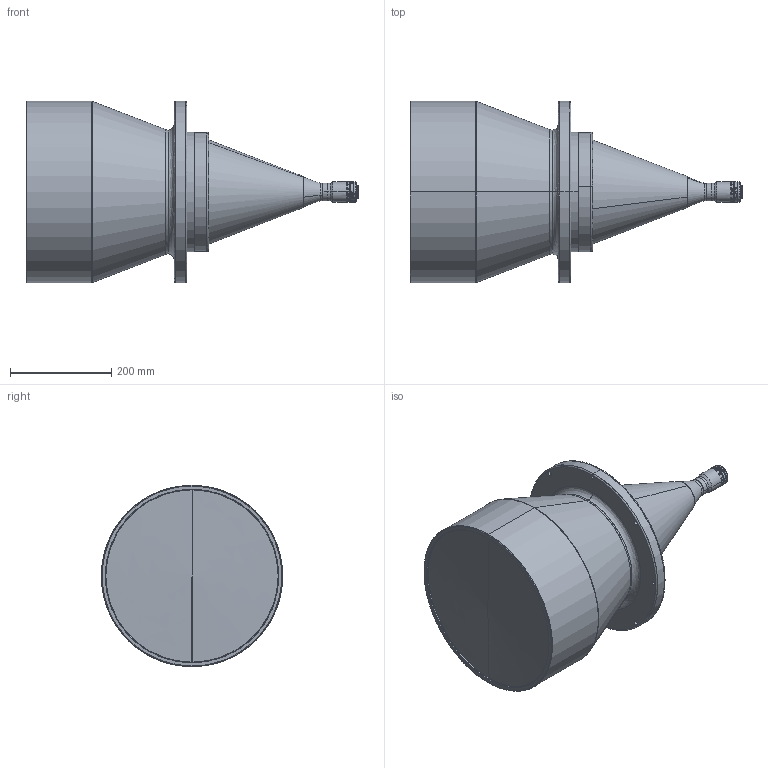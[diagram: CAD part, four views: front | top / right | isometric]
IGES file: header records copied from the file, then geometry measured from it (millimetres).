
Start section: SolidWorks IGES file using analytic representation for surfaces
Global section: file name: F:\BaiduSyncdisk\1-产品  2022-new\DTCM（2023.5.29整体拷过来）\F+B\－－ AL   可调后截距\300S-  AL-ok\DTCM110-300S-AL\3D\DTCM110-300S-AL.IGS; native system: SolidWorks 2017; preprocessor: SolidWorks 2017; author: luo-PC; date: 231122.181839; units: millimetre
Bounding box: 655.36 x 358 x 358 mm (x, y, z)
Surface area: 688377.2 mm2 (no closed solid volume)
Topology: 0 solids, 0 shells, 249 faces, 4038 edges, 4032 vertices
Faces by surface type: revolution 199, bspline 50
